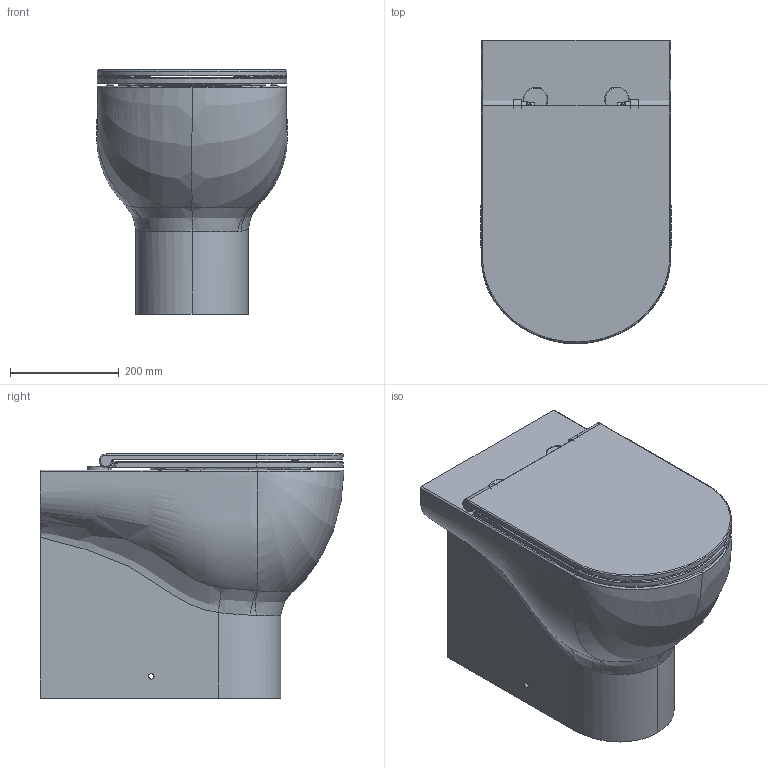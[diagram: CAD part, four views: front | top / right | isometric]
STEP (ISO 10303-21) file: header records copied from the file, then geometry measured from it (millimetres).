
FILE_DESCRIPTION (( 'STEP AP203' ), '1' );
FILE_NAME ('NUVCTTE00000.STEP', '2019-07-01T15:09:06', ( '' ), ( '' ), 'SwSTEP 2.0', 'SolidWorks 2019', '' );
FILE_SCHEMA (( 'CONFIG_CONTROL_DESIGN' ));
Length unit declared in the file: millimetre
Products named in the file (7): Parte cernieraSNODO; CPWR NUV1818_F COPERCHIO; NUVCTTE00000; Parte cernieraPIASTRA; CPWR NUV1818_F CIAMBELLA; AssiemeNUV1818_F; NUV100E_TRP
Assembly tree (8 placements, depth 3):
  NUVCTTE00000
    NUV100E_TRP
    AssiemeNUV1818_F
      CPWR NUV1818_F CIAMBELLA
      CPWR NUV1818_F COPERCHIO
      Parte cernieraSNODO  x2
      Parte cernieraPIASTRA  x2
Bounding box: 351.12 x 559.98 x 450 mm (x, y, z)
Volume: 16809639 mm3; surface area: 2570179.2 mm2
Topology: 7 solids, 9 shells, 625 faces, 1560 edges, 954 vertices
Faces by surface type: bspline 219, cylinder 172, plane 135, torus 82, cone 11, sphere 6
Entity records: 288964 total; most frequent: CARTESIAN_POINT 275688, ORIENTED_EDGE 2968, DIRECTION 2175, EDGE_CURVE 1484, VERTEX_POINT 912, AXIS2_PLACEMENT_3D 886, EDGE_LOOP 624, FACE_OUTER_BOUND 593
